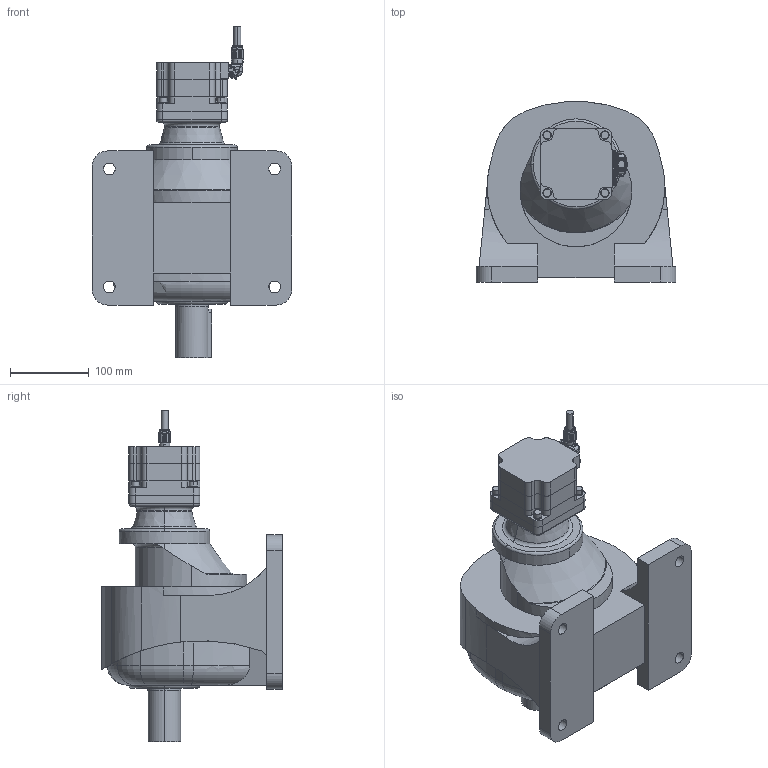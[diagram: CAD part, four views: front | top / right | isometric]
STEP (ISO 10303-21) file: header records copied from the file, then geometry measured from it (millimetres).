
FILE_DESCRIPTION (( 'STEP AP203' ), '1' );
FILE_NAME ('A1648.step', '2017-09-08T07:32:36', ( 'om' ), ( '' ), 'SwSTEP 2.0', 'SolidWorks 2014', '' );
FILE_SCHEMA (( 'CONFIG_CONTROL_DESIGN' ));
Length unit declared in the file: millimetre
Products named in the file (1): A1648
Bounding box: 254 x 229.77 x 421.45 mm (x, y, z)
Volume: 7437083.1 mm3; surface area: 346145.1 mm2
Topology: 3 solids, 10 shells, 1227 faces, 3202 edges, 2024 vertices
Faces by surface type: plane 598, cylinder 468, torus 73, bspline 59, cone 25, sphere 4
Entity records: 45895 total; most frequent: CARTESIAN_POINT 16511, ORIENTED_EDGE 6380, DIRECTION 5777, EDGE_CURVE 3190, VERTEX_POINT 2024, AXIS2_PLACEMENT_3D 2000, VECTOR 1777, LINE 1777
